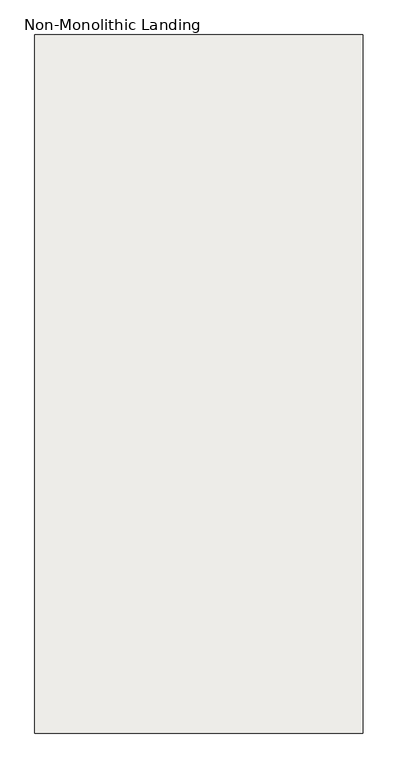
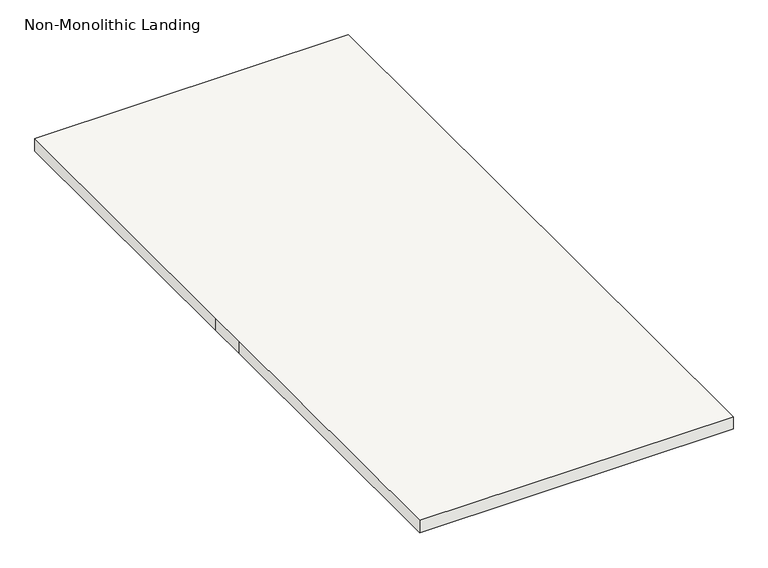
"""IFC4 building model written with IfcOpenShell, lengths in millimetres: slab geometry, Non-Monolithic Landing."""

from ifc_helpers import new_model, si_unit, frame, origin, place, context, project, spatial, polyline, outline, extrude, source, transform, mapped, element, save


def non_monolithic_landing_4b6169c6(model_context):
    return source(origin(), model_context, "Body", "SweptSolid", [
        extrude(outline(polyline([(-75808.5913038, 14647.4703267), (-74608.5913038, 14647.4703267), (-74608.5913038, 12097.101051), (-75808.5913038, 12097.101051), (-75808.5913038, 13297.101051), (-75808.5913038, 13447.4703267), (-75808.5913038, 14647.4703267)])), frame((0.0, 0.0, 49464.5207547), z_axis=(0.0, 0.0, 1.0), x_axis=(1.0, 0.0, 0.0)), (0.0, 0.0, 1.0), 50.0),
    ])


if __name__ == "__main__":
    model = new_model("IFC4")
    model_context = context("Model", 3, world=origin())
    ifc_project = project(units=[si_unit("LENGTHUNIT", "METRE", prefix="MILLI")], contexts=[model_context])
    site = spatial("IfcSite", under=ifc_project)
    building = spatial("IfcBuilding", under=site)
    placement = place(None, origin())
    non_monolithic_landing_shape = non_monolithic_landing_4b6169c6(model_context)
    element("IfcSlab", 1, ObjectType="Non-Monolithic Landing", at=placement, inside=building, context=model_context, shape_type="MappedRepresentation", body=[
        mapped(non_monolithic_landing_shape, transform((0.0, 0.0, 0.0), x_axis=(1.0, 0.0, 0.0), y_axis=(0.0, 1.0, 0.0), z_axis=(0.0, 0.0, 1.0))),
    ])
    save(model, "model.ifc")
